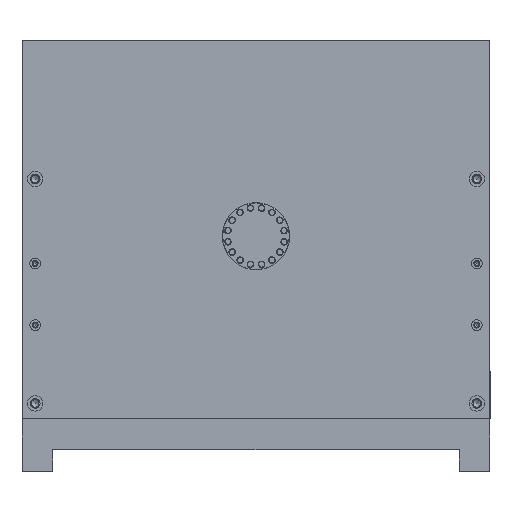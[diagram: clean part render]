
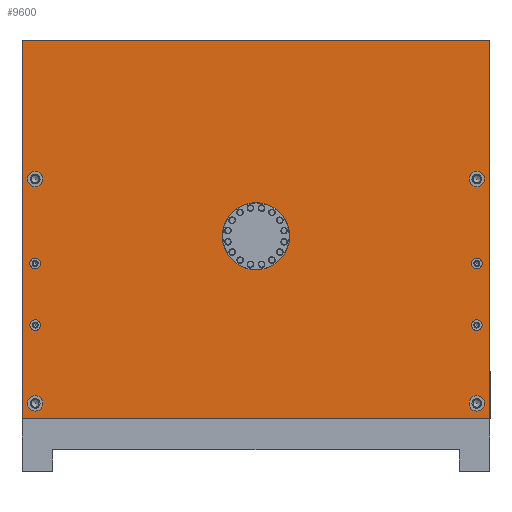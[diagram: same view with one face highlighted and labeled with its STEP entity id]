
A CAD part, front view. The second image highlights one B-rep face of the part: STEP entity #9600.
In plain terms, the highlighted planar face has unit normal (0, -1, 0) as drawn and (0, 0, 1) by its records, which use the part's own axes.
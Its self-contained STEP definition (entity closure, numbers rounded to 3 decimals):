
#859=FACE_BOUND('',#1904,.T.);
#860=FACE_BOUND('',#1905,.T.);
#861=FACE_BOUND('',#1906,.T.);
#862=FACE_BOUND('',#1907,.T.);
#863=FACE_BOUND('',#1908,.T.);
#864=FACE_BOUND('',#1909,.T.);
#865=FACE_BOUND('',#1910,.T.);
#866=FACE_BOUND('',#1911,.T.);
#867=FACE_BOUND('',#1912,.T.);
#1055=PLANE('',#10570);
#1341=FACE_OUTER_BOUND('',#1903,.T.);
#1903=EDGE_LOOP('',(#7261,#7262,#7263,#7264));
#1904=EDGE_LOOP('',(#7265,#7266));
#1905=EDGE_LOOP('',(#7267,#7268));
#1906=EDGE_LOOP('',(#7269,#7270));
#1907=EDGE_LOOP('',(#7271,#7272));
#1908=EDGE_LOOP('',(#7273,#7274));
#1909=EDGE_LOOP('',(#7275,#7276));
#1910=EDGE_LOOP('',(#7277,#7278));
#1911=EDGE_LOOP('',(#7279,#7280));
#1912=EDGE_LOOP('',(#7281,#7282));
#2522=LINE('',#15148,#3196);
#2525=LINE('',#15153,#3199);
#2554=LINE('',#15361,#3228);
#2556=LINE('',#15364,#3230);
#3196=VECTOR('',#12006,10.);
#3199=VECTOR('',#12011,10.);
#3228=VECTOR('',#12252,10.);
#3230=VECTOR('',#12256,10.);
#3892=CIRCLE('',#10475,53.);
#3893=CIRCLE('',#10476,53.);
#3912=CIRCLE('',#10509,12.);
#3913=CIRCLE('',#10510,12.);
#3917=CIRCLE('',#10517,12.);
#3918=CIRCLE('',#10518,12.);
#3922=CIRCLE('',#10525,12.);
#3923=CIRCLE('',#10526,12.);
#3927=CIRCLE('',#10533,12.);
#3928=CIRCLE('',#10534,12.);
#3932=CIRCLE('',#10541,17.5);
#3933=CIRCLE('',#10542,17.5);
#3937=CIRCLE('',#10549,17.5);
#3938=CIRCLE('',#10550,17.5);
#3942=CIRCLE('',#10557,17.5);
#3943=CIRCLE('',#10558,17.5);
#3947=CIRCLE('',#10565,17.5);
#3948=CIRCLE('',#10566,17.5);
#4532=VERTEX_POINT('',#15145);
#4533=VERTEX_POINT('',#15147);
#4534=VERTEX_POINT('',#15151);
#4545=VERTEX_POINT('',#15176);
#4546=VERTEX_POINT('',#15177);
#4570=VERTEX_POINT('',#15247);
#4571=VERTEX_POINT('',#15248);
#4575=VERTEX_POINT('',#15262);
#4576=VERTEX_POINT('',#15263);
#4580=VERTEX_POINT('',#15277);
#4581=VERTEX_POINT('',#15278);
#4585=VERTEX_POINT('',#15292);
#4586=VERTEX_POINT('',#15293);
#4590=VERTEX_POINT('',#15307);
#4591=VERTEX_POINT('',#15308);
#4595=VERTEX_POINT('',#15322);
#4596=VERTEX_POINT('',#15323);
#4600=VERTEX_POINT('',#15337);
#4601=VERTEX_POINT('',#15338);
#4605=VERTEX_POINT('',#15352);
#4606=VERTEX_POINT('',#15353);
#4607=VERTEX_POINT('',#15360);
#5531=EDGE_CURVE('',#4533,#4532,#2522,.T.);
#5534=EDGE_CURVE('',#4532,#4534,#2525,.T.);
#5545=EDGE_CURVE('',#4545,#4546,#3892,.T.);
#5546=EDGE_CURVE('',#4546,#4545,#3893,.T.);
#5577=EDGE_CURVE('',#4570,#4571,#3912,.T.);
#5578=EDGE_CURVE('',#4571,#4570,#3913,.T.);
#5584=EDGE_CURVE('',#4575,#4576,#3917,.T.);
#5585=EDGE_CURVE('',#4576,#4575,#3918,.T.);
#5591=EDGE_CURVE('',#4580,#4581,#3922,.T.);
#5592=EDGE_CURVE('',#4581,#4580,#3923,.T.);
#5598=EDGE_CURVE('',#4585,#4586,#3927,.T.);
#5599=EDGE_CURVE('',#4586,#4585,#3928,.T.);
#5605=EDGE_CURVE('',#4590,#4591,#3932,.T.);
#5606=EDGE_CURVE('',#4591,#4590,#3933,.T.);
#5612=EDGE_CURVE('',#4595,#4596,#3937,.T.);
#5613=EDGE_CURVE('',#4596,#4595,#3938,.T.);
#5619=EDGE_CURVE('',#4600,#4601,#3942,.T.);
#5620=EDGE_CURVE('',#4601,#4600,#3943,.T.);
#5626=EDGE_CURVE('',#4605,#4606,#3947,.T.);
#5627=EDGE_CURVE('',#4606,#4605,#3948,.T.);
#5630=EDGE_CURVE('',#4607,#4533,#2554,.T.);
#5632=EDGE_CURVE('',#4534,#4607,#2556,.T.);
#7261=ORIENTED_EDGE('',*,*,#5632,.T.);
#7262=ORIENTED_EDGE('',*,*,#5630,.T.);
#7263=ORIENTED_EDGE('',*,*,#5531,.T.);
#7264=ORIENTED_EDGE('',*,*,#5534,.T.);
#7265=ORIENTED_EDGE('',*,*,#5545,.T.);
#7266=ORIENTED_EDGE('',*,*,#5546,.T.);
#7267=ORIENTED_EDGE('',*,*,#5577,.T.);
#7268=ORIENTED_EDGE('',*,*,#5578,.T.);
#7269=ORIENTED_EDGE('',*,*,#5584,.T.);
#7270=ORIENTED_EDGE('',*,*,#5585,.T.);
#7271=ORIENTED_EDGE('',*,*,#5591,.T.);
#7272=ORIENTED_EDGE('',*,*,#5592,.T.);
#7273=ORIENTED_EDGE('',*,*,#5598,.T.);
#7274=ORIENTED_EDGE('',*,*,#5599,.T.);
#7275=ORIENTED_EDGE('',*,*,#5605,.T.);
#7276=ORIENTED_EDGE('',*,*,#5606,.T.);
#7277=ORIENTED_EDGE('',*,*,#5612,.T.);
#7278=ORIENTED_EDGE('',*,*,#5613,.T.);
#7279=ORIENTED_EDGE('',*,*,#5619,.T.);
#7280=ORIENTED_EDGE('',*,*,#5620,.T.);
#7281=ORIENTED_EDGE('',*,*,#5626,.T.);
#7282=ORIENTED_EDGE('',*,*,#5627,.T.);
#9600=ADVANCED_FACE('',(#1341,#859,#860,#861,#862,#863,#864,#865,#866,#867),
#1055,.T.);
#10475=AXIS2_PLACEMENT_3D('',#15178,#12036,#12037);
#10476=AXIS2_PLACEMENT_3D('',#15179,#12038,#12039);
#10509=AXIS2_PLACEMENT_3D('',#15249,#12116,#12117);
#10510=AXIS2_PLACEMENT_3D('',#15250,#12118,#12119);
#10517=AXIS2_PLACEMENT_3D('',#15264,#12134,#12135);
#10518=AXIS2_PLACEMENT_3D('',#15265,#12136,#12137);
#10525=AXIS2_PLACEMENT_3D('',#15279,#12152,#12153);
#10526=AXIS2_PLACEMENT_3D('',#15280,#12154,#12155);
#10533=AXIS2_PLACEMENT_3D('',#15294,#12170,#12171);
#10534=AXIS2_PLACEMENT_3D('',#15295,#12172,#12173);
#10541=AXIS2_PLACEMENT_3D('',#15309,#12188,#12189);
#10542=AXIS2_PLACEMENT_3D('',#15310,#12190,#12191);
#10549=AXIS2_PLACEMENT_3D('',#15324,#12206,#12207);
#10550=AXIS2_PLACEMENT_3D('',#15325,#12208,#12209);
#10557=AXIS2_PLACEMENT_3D('',#15339,#12224,#12225);
#10558=AXIS2_PLACEMENT_3D('',#15340,#12226,#12227);
#10565=AXIS2_PLACEMENT_3D('',#15354,#12242,#12243);
#10566=AXIS2_PLACEMENT_3D('',#15355,#12244,#12245);
#10570=AXIS2_PLACEMENT_3D('',#15365,#12257,#12258);
#12006=DIRECTION('',(1.,0.,0.));
#12011=DIRECTION('',(0.,1.,0.));
#12036=DIRECTION('center_axis',(0.,0.,-1.));
#12037=DIRECTION('ref_axis',(1.,0.,0.));
#12038=DIRECTION('center_axis',(0.,0.,-1.));
#12039=DIRECTION('ref_axis',(1.,0.,0.));
#12116=DIRECTION('center_axis',(0.,0.,-1.));
#12117=DIRECTION('ref_axis',(1.,0.,0.));
#12118=DIRECTION('center_axis',(0.,0.,-1.));
#12119=DIRECTION('ref_axis',(1.,0.,0.));
#12134=DIRECTION('center_axis',(0.,0.,-1.));
#12135=DIRECTION('ref_axis',(1.,0.,0.));
#12136=DIRECTION('center_axis',(0.,0.,-1.));
#12137=DIRECTION('ref_axis',(1.,0.,0.));
#12152=DIRECTION('center_axis',(0.,0.,-1.));
#12153=DIRECTION('ref_axis',(1.,0.,0.));
#12154=DIRECTION('center_axis',(0.,0.,-1.));
#12155=DIRECTION('ref_axis',(1.,0.,0.));
#12170=DIRECTION('center_axis',(0.,0.,-1.));
#12171=DIRECTION('ref_axis',(1.,0.,0.));
#12172=DIRECTION('center_axis',(0.,0.,-1.));
#12173=DIRECTION('ref_axis',(1.,0.,0.));
#12188=DIRECTION('center_axis',(0.,0.,-1.));
#12189=DIRECTION('ref_axis',(1.,0.,0.));
#12190=DIRECTION('center_axis',(0.,0.,-1.));
#12191=DIRECTION('ref_axis',(1.,0.,0.));
#12206=DIRECTION('center_axis',(0.,0.,-1.));
#12207=DIRECTION('ref_axis',(1.,0.,0.));
#12208=DIRECTION('center_axis',(0.,0.,-1.));
#12209=DIRECTION('ref_axis',(1.,0.,0.));
#12224=DIRECTION('center_axis',(0.,0.,-1.));
#12225=DIRECTION('ref_axis',(1.,0.,0.));
#12226=DIRECTION('center_axis',(0.,0.,-1.));
#12227=DIRECTION('ref_axis',(1.,0.,0.));
#12242=DIRECTION('center_axis',(0.,0.,-1.));
#12243=DIRECTION('ref_axis',(1.,0.,0.));
#12244=DIRECTION('center_axis',(0.,0.,-1.));
#12245=DIRECTION('ref_axis',(1.,0.,0.));
#12252=DIRECTION('',(0.,-1.,0.));
#12256=DIRECTION('',(-1.,0.,0.));
#12257=DIRECTION('center_axis',(0.,0.,1.));
#12258=DIRECTION('ref_axis',(1.,0.,0.));
#15145=CARTESIAN_POINT('',(430.,-532.,60.));
#15147=CARTESIAN_POINT('',(-430.,-532.,60.));
#15148=CARTESIAN_POINT('',(-430.,-532.,60.));
#15151=CARTESIAN_POINT('',(430.,532.,60.));
#15153=CARTESIAN_POINT('',(430.,-532.,60.));
#15176=CARTESIAN_POINT('',(68.,0.,60.));
#15177=CARTESIAN_POINT('',(-38.,0.,60.));
#15178=CARTESIAN_POINT('Origin',(15.,0.,60.));
#15179=CARTESIAN_POINT('Origin',(15.,0.,60.));
#15247=CARTESIAN_POINT('',(89.,-502.,60.));
#15248=CARTESIAN_POINT('',(65.,-502.,60.));
#15249=CARTESIAN_POINT('Origin',(77.,-502.,60.));
#15250=CARTESIAN_POINT('Origin',(77.,-502.,60.));
#15262=CARTESIAN_POINT('',(89.,502.,60.));
#15263=CARTESIAN_POINT('',(65.,502.,60.));
#15264=CARTESIAN_POINT('Origin',(77.,502.,60.));
#15265=CARTESIAN_POINT('Origin',(77.,502.,60.));
#15277=CARTESIAN_POINT('',(229.,502.,60.));
#15278=CARTESIAN_POINT('',(205.,502.,60.));
#15279=CARTESIAN_POINT('Origin',(217.,502.,60.));
#15280=CARTESIAN_POINT('Origin',(217.,502.,60.));
#15292=CARTESIAN_POINT('',(229.,-502.,60.));
#15293=CARTESIAN_POINT('',(205.,-502.,60.));
#15294=CARTESIAN_POINT('Origin',(217.,-502.,60.));
#15295=CARTESIAN_POINT('Origin',(217.,-502.,60.));
#15307=CARTESIAN_POINT('',(-97.5,502.,60.));
#15308=CARTESIAN_POINT('',(-132.5,502.,60.));
#15309=CARTESIAN_POINT('Origin',(-115.,502.,60.));
#15310=CARTESIAN_POINT('Origin',(-115.,502.,60.));
#15322=CARTESIAN_POINT('',(412.5,-502.,60.));
#15323=CARTESIAN_POINT('',(377.5,-502.,60.));
#15324=CARTESIAN_POINT('Origin',(395.,-502.,60.));
#15325=CARTESIAN_POINT('Origin',(395.,-502.,60.));
#15337=CARTESIAN_POINT('',(412.5,502.,60.));
#15338=CARTESIAN_POINT('',(377.5,502.,60.));
#15339=CARTESIAN_POINT('Origin',(395.,502.,60.));
#15340=CARTESIAN_POINT('Origin',(395.,502.,60.));
#15352=CARTESIAN_POINT('',(-97.5,-502.,60.));
#15353=CARTESIAN_POINT('',(-132.5,-502.,60.));
#15354=CARTESIAN_POINT('Origin',(-115.,-502.,60.));
#15355=CARTESIAN_POINT('Origin',(-115.,-502.,60.));
#15360=CARTESIAN_POINT('',(-430.,532.,60.));
#15361=CARTESIAN_POINT('',(-430.,532.,60.));
#15364=CARTESIAN_POINT('',(430.,532.,60.));
#15365=CARTESIAN_POINT('Origin',(0.,0.,60.));
